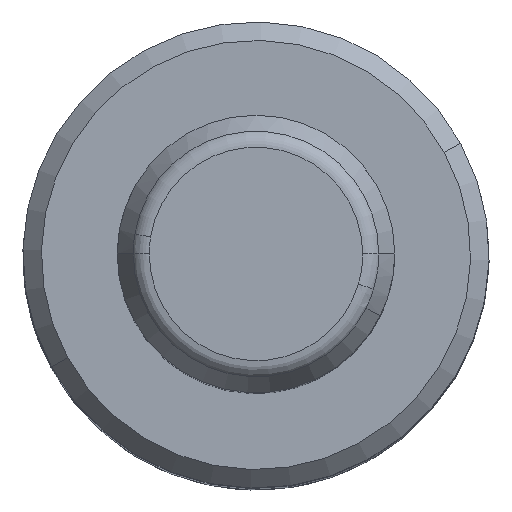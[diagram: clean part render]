
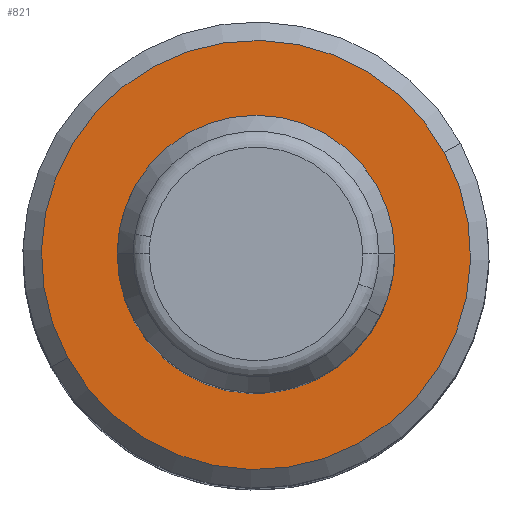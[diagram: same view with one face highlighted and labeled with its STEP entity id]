
A CAD part, top view. The second image highlights one B-rep face of the part: STEP entity #821.
In plain terms, the highlighted planar face has unit normal (0, 0, 1).
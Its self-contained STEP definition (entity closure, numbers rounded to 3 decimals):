
#769=CARTESIAN_POINT('Axis2P3D Location',(0.,0.,61.)) ;
#773=CARTESIAN_POINT('Vertex',(10.18,5.561,61.)) ;
#775=CARTESIAN_POINT('Vertex',(-10.18,-5.561,61.)) ;
#800=CARTESIAN_POINT('Axis2P3D Location',(0.,0.,61.)) ;
#812=CARTESIAN_POINT('Axis2P3D Location',(11.6,0.,61.)) ;
#770=DIRECTION('Axis2P3D Direction',(0.,0.,-1.)) ;
#801=DIRECTION('Axis2P3D Direction',(0.,0.,-1.)) ;
#813=DIRECTION('Axis2P3D Direction',(0.,0.,1.)) ;
#814=DIRECTION('Axis2P3D XDirection',(1.,0.,0.)) ;
#771=AXIS2_PLACEMENT_3D('Circle Axis2P3D',#769,#770,$) ;
#802=AXIS2_PLACEMENT_3D('Circle Axis2P3D',#800,#801,$) ;
#815=AXIS2_PLACEMENT_3D('Plane Axis2P3D',#812,#813,#814) ;
#818=ORIENTED_EDGE('',*,*,#777,.T.) ;
#819=ORIENTED_EDGE('',*,*,#804,.T.) ;
#821=ADVANCED_FACE('',(#820),#816,.T.) ;
#772=CIRCLE('generated circle',#771,11.6) ;
#803=CIRCLE('generated circle',#802,11.6) ;
#777=EDGE_CURVE('',#774,#776,#772,.F.) ;
#804=EDGE_CURVE('',#776,#774,#803,.F.) ;
#817=EDGE_LOOP('',(#818,#819)) ;
#820=FACE_OUTER_BOUND('',#817,.T.) ;
#816=PLANE('Plane',#815) ;
#774=VERTEX_POINT('',#773) ;
#776=VERTEX_POINT('',#775) ;
